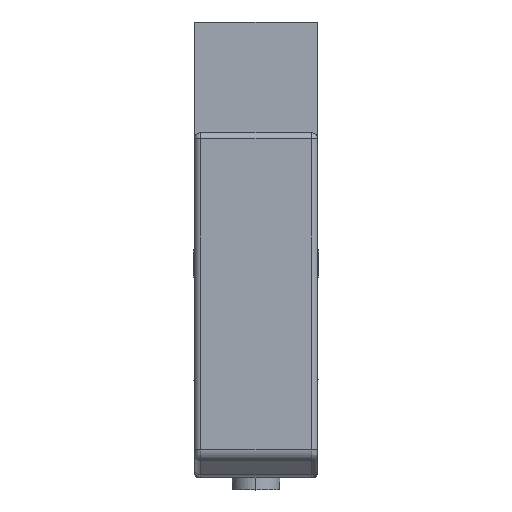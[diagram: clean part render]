
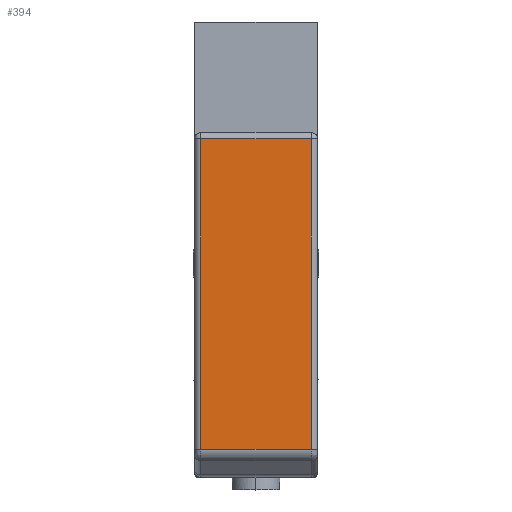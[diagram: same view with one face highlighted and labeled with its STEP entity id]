
A CAD part, top view. The second image highlights one B-rep face of the part: STEP entity #394.
In plain terms, the highlighted planar face has unit normal (0, 0, 1).
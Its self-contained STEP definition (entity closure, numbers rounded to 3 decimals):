
#394=ADVANCED_FACE('',(#1790),#1789,.F.);
#1789=PLANE('',#3147);
#1790=FACE_OUTER_BOUND('',#3148,.T.);
#3144=CARTESIAN_POINT('',(5.4,-27.283,27.4));
#3145=DIRECTION('',(0.,0.,-1.));
#3146=DIRECTION('',(-1.,0.,0.));
#3147=AXIS2_PLACEMENT_3D('',#3144,#3145,#3146);
#3148=EDGE_LOOP('',(#4103,#4104,#4105,#4106));
#4103=ORIENTED_EDGE('',*,*,#4662,.T.);
#4104=ORIENTED_EDGE('',*,*,#4626,.T.);
#4105=ORIENTED_EDGE('',*,*,#4663,.F.);
#4106=ORIENTED_EDGE('',*,*,#4647,.T.);
#4626=EDGE_CURVE('',#6791,#6804,#6811,.T.);
#4647=EDGE_CURVE('',#6922,#6942,#6949,.T.);
#4662=EDGE_CURVE('',#6942,#6791,#7044,.T.);
#4663=EDGE_CURVE('',#6922,#6804,#7050,.T.);
#6791=VERTEX_POINT('',#8868);
#6804=VERTEX_POINT('',#8877);
#6811=LINE('',#8882,#8883);
#6922=VERTEX_POINT('',#8954);
#6942=VERTEX_POINT('',#8968);
#6949=LINE('',#8973,#8974);
#7044=LINE('',#9026,#9027);
#7050=LINE('',#9029,#9030);
#8868=CARTESIAN_POINT('',(-4.5,0.5,27.4));
#8877=CARTESIAN_POINT('',(-4.5,-24.758,27.4));
#8882=CARTESIAN_POINT('',(-4.5,0.5,27.4));
#8883=VECTOR('',#8884,25.258);
#8884=DIRECTION('',(0.,-1.,0.));
#8954=CARTESIAN_POINT('',(4.5,-24.758,27.4));
#8968=CARTESIAN_POINT('',(4.5,0.5,27.4));
#8973=CARTESIAN_POINT('',(4.5,-24.758,27.4));
#8974=VECTOR('',#8975,25.258);
#8975=DIRECTION('',(0.,1.,0.));
#9026=CARTESIAN_POINT('',(4.5,0.5,27.4));
#9027=VECTOR('',#9028,9.);
#9028=DIRECTION('',(-1.,0.,0.));
#9029=CARTESIAN_POINT('',(4.5,-24.758,27.4));
#9030=VECTOR('',#9031,9.);
#9031=DIRECTION('',(-1.,0.,0.));
